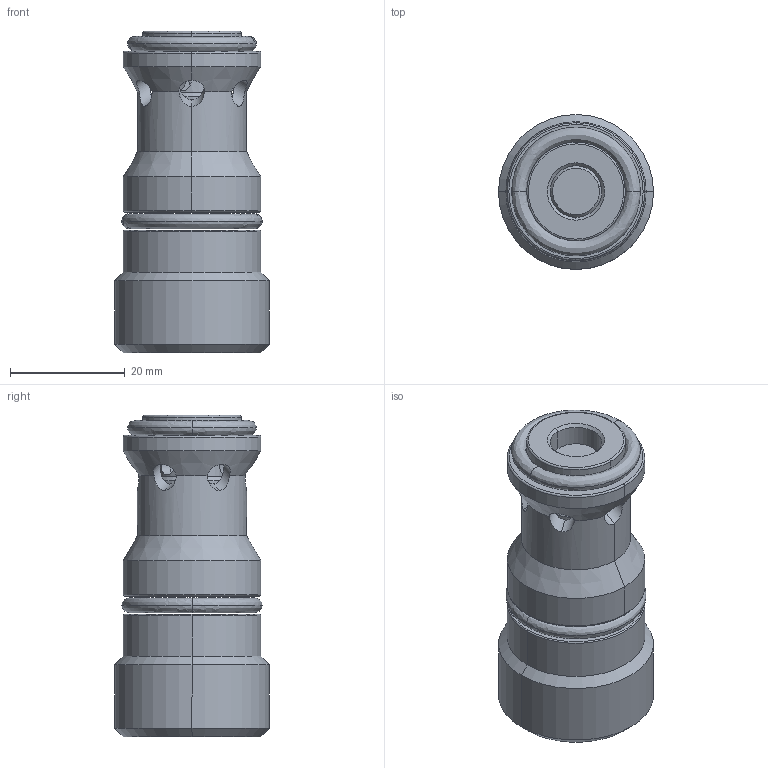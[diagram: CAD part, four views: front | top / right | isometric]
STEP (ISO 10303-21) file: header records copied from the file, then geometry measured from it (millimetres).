
FILE_DESCRIPTION (( 'STEP AP214' ), '1' );
FILE_NAME ('FT2267_6-38.STEP', '2015-03-30T19:37:17', ( '' ), ( '' ), 'SwSTEP 2.0', 'SolidWorks 2014', '' );
FILE_SCHEMA (( 'AUTOMOTIVE_DESIGN' ));
Length unit declared in the file: millimetre
Products named in the file (1): FT2267_6-38
Bounding box: 27 x 27 x 56 mm (x, y, z)
Surface area: 7614.5 mm2 (no closed solid volume)
Topology: 0 solids, 7 shells, 208 faces, 621 edges, 405 vertices
Faces by surface type: plane 71, bspline 63, cylinder 48, cone 18, torus 8
Entity records: 13766 total; most frequent: CARTESIAN_POINT 6448, ORIENTED_EDGE 1110, DIRECTION 809, EDGE_CURVE 619, VERTEX_POINT 405, LINE 309, VECTOR 309, AXIS2_PLACEMENT_3D 250
